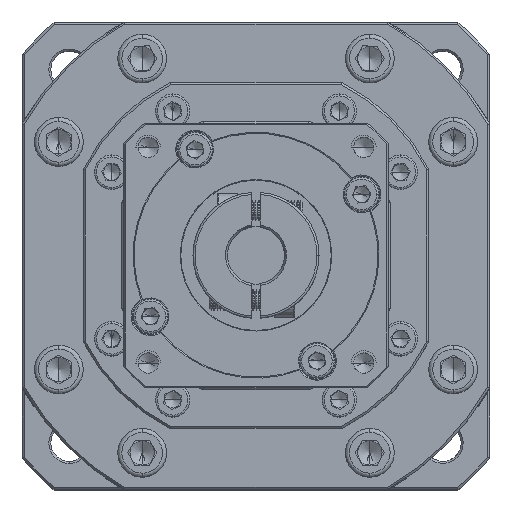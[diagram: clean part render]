
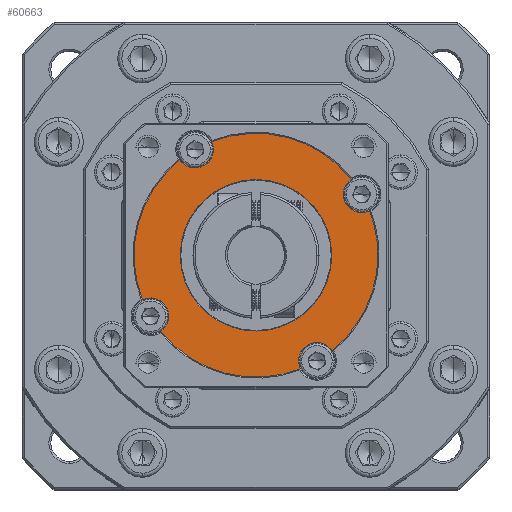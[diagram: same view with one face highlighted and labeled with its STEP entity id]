
A CAD part, top view. The second image highlights one B-rep face of the part: STEP entity #60663.
In plain terms, the highlighted planar face has unit normal (0, 0, 1).
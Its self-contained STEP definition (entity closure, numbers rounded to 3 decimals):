
#1072 = EDGE_CURVE ( 'NONE', #39935, #12181, #59356, .T. ) ;
#1724 = CARTESIAN_POINT ( 'NONE',  ( -60.961, 27.289, -3.698 ) ) ;
#1756 = CARTESIAN_POINT ( 'NONE',  ( -60.961, 27.289, -3.698 ) ) ;
#1801 = CIRCLE ( 'NONE', #104225, 18.644 ) ;
#3540 = CARTESIAN_POINT ( 'NONE',  ( -88.894, 16.343, -3.698 ) ) ;
#3610 = ORIENTED_EDGE ( 'NONE', *, *, #1072, .T. ) ;
#3713 = DIRECTION ( 'NONE',  ( 1., 0., 0. ) ) ;
#3820 = CARTESIAN_POINT ( 'NONE',  ( -50.016, -0.644, -3.698 ) ) ;
#4301 = EDGE_CURVE ( 'NONE', #36985, #88528, #77562, .T. ) ;
#4371 = CARTESIAN_POINT ( 'NONE',  ( -42.244, 3.844, -3.698 ) ) ;
#4482 = DIRECTION ( 'NONE',  ( 1., 0., 0. ) ) ;
#6733 = CIRCLE ( 'NONE', #121796, 4.5 ) ;
#7165 = CARTESIAN_POINT ( 'NONE',  ( -42.317, 27.289, -3.698 ) ) ;
#7750 = DIRECTION ( 'NONE',  ( 0., 0., 1. ) ) ;
#8287 = EDGE_CURVE ( 'NONE', #116603, #60258, #89022, .T. ) ;
#8455 = AXIS2_PLACEMENT_3D ( 'NONE', #1756, #107235, #48822 ) ;
#9093 = VERTEX_POINT ( 'NONE', #90419 ) ;
#10610 = AXIS2_PLACEMENT_3D ( 'NONE', #116569, #58145, #126382 ) ;
#10781 = ORIENTED_EDGE ( 'NONE', *, *, #4301, .F. ) ;
#11604 = DIRECTION ( 'NONE',  ( 1., 0., 0. ) ) ;
#12181 = VERTEX_POINT ( 'NONE', #3820 ) ;
#12183 = ORIENTED_EDGE ( 'NONE', *, *, #18571, .F. ) ;
#18571 = EDGE_CURVE ( 'NONE', #88528, #12181, #94264, .T. ) ;
#19110 = DIRECTION ( 'NONE',  ( 0., 0., 1. ) ) ;
#20690 = DIRECTION ( 'NONE',  ( 0., 0., 1. ) ) ;
#20805 = CARTESIAN_POINT ( 'NONE',  ( -86.942, 12.289, -3.698 ) ) ;
#21366 = AXIS2_PLACEMENT_3D ( 'NONE', #66278, #7750, #76119 ) ;
#22056 = ORIENTED_EDGE ( 'NONE', *, *, #90668, .F. ) ;
#22115 = CARTESIAN_POINT ( 'NONE',  ( -33.029, 38.234, -3.698 ) ) ;
#22496 = CARTESIAN_POINT ( 'NONE',  ( -79.606, 27.289, -3.698 ) ) ;
#23285 = ORIENTED_EDGE ( 'NONE', *, *, #8287, .T. ) ;
#26175 = ORIENTED_EDGE ( 'NONE', *, *, #40325, .T. ) ;
#26818 = EDGE_CURVE ( 'NONE', #36985, #116603, #29306, .T. ) ;
#28546 = AXIS2_PLACEMENT_3D ( 'NONE', #1724, #70152, #11604 ) ;
#29306 = CIRCLE ( 'NONE', #28546, 30. ) ;
#29344 = VERTEX_POINT ( 'NONE', #22496 ) ;
#30547 = CARTESIAN_POINT ( 'NONE',  ( -86.942, 12.289, -3.698 ) ) ;
#30631 = DIRECTION ( 'NONE',  ( 1., 0., 0. ) ) ;
#32760 = VERTEX_POINT ( 'NONE', #96810 ) ;
#33341 = EDGE_CURVE ( 'NONE', #50815, #60258, #125856, .T. ) ;
#34349 = CIRCLE ( 'NONE', #10610, 30. ) ;
#35018 = CARTESIAN_POINT ( 'NONE',  ( -75.961, 53.269, -3.698 ) ) ;
#35819 = EDGE_CURVE ( 'NONE', #29344, #103162, #1801, .T. ) ;
#35896 = DIRECTION ( 'NONE',  ( 0., 0., 1. ) ) ;
#36831 = CARTESIAN_POINT ( 'NONE',  ( -50.461, 1.308, -3.698 ) ) ;
#36985 = VERTEX_POINT ( 'NONE', #4371 ) ;
#38533 = ORIENTED_EDGE ( 'NONE', *, *, #26818, .T. ) ;
#39935 = VERTEX_POINT ( 'NONE', #52741 ) ;
#40011 = PLANE ( 'NONE',  #115029 ) ;
#40325 = EDGE_CURVE ( 'NONE', #69358, #32760, #63833, .T. ) ;
#40445 = DIRECTION ( 'NONE',  ( 1., 0., 0. ) ) ;
#41075 = DIRECTION ( 'NONE',  ( 0., 0., -1. ) ) ;
#44869 = DIRECTION ( 'NONE',  ( 1., 0., 0. ) ) ;
#45737 = DIRECTION ( 'NONE',  ( 0., 0., 1. ) ) ;
#47228 = EDGE_CURVE ( 'NONE', #71603, #80438, #96500, .T. ) ;
#47336 = CIRCLE ( 'NONE', #79772, 18.644 ) ;
#47667 = CIRCLE ( 'NONE', #109383, 4.5 ) ;
#48822 = DIRECTION ( 'NONE',  ( 1., 0., 0. ) ) ;
#49705 = CARTESIAN_POINT ( 'NONE',  ( -37.517, 46.006, -3.698 ) ) ;
#50815 = VERTEX_POINT ( 'NONE', #81344 ) ;
#51923 = ORIENTED_EDGE ( 'NONE', *, *, #47228, .F. ) ;
#52364 = CARTESIAN_POINT ( 'NONE',  ( -60.961, 27.289, -3.698 ) ) ;
#52741 = CARTESIAN_POINT ( 'NONE',  ( -84.406, 8.571, -3.698 ) ) ;
#56860 = DIRECTION ( 'NONE',  ( 0., 0., 1. ) ) ;
#57031 = ORIENTED_EDGE ( 'NONE', *, *, #85710, .F. ) ;
#58145 = DIRECTION ( 'NONE',  ( 0., 0., 1. ) ) ;
#59356 = CIRCLE ( 'NONE', #109735, 30. ) ;
#60258 = VERTEX_POINT ( 'NONE', #22115 ) ;
#60663 = ADVANCED_FACE ( 'NONE', ( #115875, #70168 ), #40011, .T. ) ;
#62157 = DIRECTION ( 'NONE',  ( 1., 0., 0. ) ) ;
#62269 = DIRECTION ( 'NONE',  ( 0., 0., 1. ) ) ;
#63040 = DIRECTION ( 'NONE',  ( 0., 0., 1. ) ) ;
#63833 = CIRCLE ( 'NONE', #8455, 30. ) ;
#66278 = CARTESIAN_POINT ( 'NONE',  ( -60.961, 27.289, -3.698 ) ) ;
#69358 = VERTEX_POINT ( 'NONE', #49705 ) ;
#70152 = DIRECTION ( 'NONE',  ( 0., 0., 1. ) ) ;
#70168 = FACE_OUTER_BOUND ( 'NONE', #95942, .T. ) ;
#71603 = VERTEX_POINT ( 'NONE', #84544 ) ;
#71837 = ORIENTED_EDGE ( 'NONE', *, *, #118761, .T. ) ;
#73014 = EDGE_CURVE ( 'NONE', #115792, #32760, #47667, .T. ) ;
#74054 = AXIS2_PLACEMENT_3D ( 'NONE', #121507, #63040, #4482 ) ;
#76119 = DIRECTION ( 'NONE',  ( 1., 0., 0. ) ) ;
#77562 = CIRCLE ( 'NONE', #84604, 4.5 ) ;
#77660 = CARTESIAN_POINT ( 'NONE',  ( -60.961, 27.289, -3.698 ) ) ;
#79301 = CARTESIAN_POINT ( 'NONE',  ( -60.961, 27.289, -3.698 ) ) ;
#79513 = AXIS2_PLACEMENT_3D ( 'NONE', #115315, #56860, #125141 ) ;
#79772 = AXIS2_PLACEMENT_3D ( 'NONE', #99475, #41075, #109275 ) ;
#80438 = VERTEX_POINT ( 'NONE', #3540 ) ;
#80923 = ORIENTED_EDGE ( 'NONE', *, *, #73014, .F. ) ;
#81344 = CARTESIAN_POINT ( 'NONE',  ( -39.481, 42.289, -3.698 ) ) ;
#84544 = CARTESIAN_POINT ( 'NONE',  ( -82.442, 12.289, -3.698 ) ) ;
#84604 = AXIS2_PLACEMENT_3D ( 'NONE', #94333, #35896, #104096 ) ;
#85710 = EDGE_CURVE ( 'NONE', #69358, #50815, #6733, .T. ) ;
#86072 = ORIENTED_EDGE ( 'NONE', *, *, #35819, .T. ) ;
#87409 = DIRECTION ( 'NONE',  ( 1., 0., 0. ) ) ;
#87871 = CARTESIAN_POINT ( 'NONE',  ( -30.961, 27.289, -3.698 ) ) ;
#88528 = VERTEX_POINT ( 'NONE', #36831 ) ;
#89017 = DIRECTION ( 'NONE',  ( 1., 0., 0. ) ) ;
#89022 = CIRCLE ( 'NONE', #21366, 30. ) ;
#89135 = DIRECTION ( 'NONE',  ( 0., 0., 1. ) ) ;
#90419 = CARTESIAN_POINT ( 'NONE',  ( -79.679, 50.733, -3.698 ) ) ;
#90668 = EDGE_CURVE ( 'NONE', #39935, #71603, #117568, .T. ) ;
#92298 = AXIS2_PLACEMENT_3D ( 'NONE', #30547, #98829, #40445 ) ;
#94264 = CIRCLE ( 'NONE', #74054, 4.5 ) ;
#94333 = CARTESIAN_POINT ( 'NONE',  ( -45.961, 1.308, -3.698 ) ) ;
#94855 = ORIENTED_EDGE ( 'NONE', *, *, #95776, .T. ) ;
#95776 = EDGE_CURVE ( 'NONE', #103162, #29344, #47336, .T. ) ;
#95942 = EDGE_LOOP ( 'NONE', ( #22056, #3610, #12183, #10781, #38533, #23285, #118872, #57031, #26175, #80923, #116027, #71837, #51923 ) ) ;
#96014 = EDGE_CURVE ( 'NONE', #9093, #115792, #105196, .T. ) ;
#96500 = CIRCLE ( 'NONE', #100260, 4.5 ) ;
#96810 = CARTESIAN_POINT ( 'NONE',  ( -71.906, 55.221, -3.698 ) ) ;
#96881 = AXIS2_PLACEMENT_3D ( 'NONE', #35018, #103249, #44869 ) ;
#98829 = DIRECTION ( 'NONE',  ( 0., 0., 1. ) ) ;
#99475 = CARTESIAN_POINT ( 'NONE',  ( -60.961, 27.289, -3.698 ) ) ;
#100260 = AXIS2_PLACEMENT_3D ( 'NONE', #20805, #89135, #30631 ) ;
#100868 = CARTESIAN_POINT ( 'NONE',  ( -71.461, 53.269, -3.698 ) ) ;
#103162 = VERTEX_POINT ( 'NONE', #7165 ) ;
#103249 = DIRECTION ( 'NONE',  ( 0., 0., 1. ) ) ;
#103590 = EDGE_LOOP ( 'NONE', ( #94855, #86072 ) ) ;
#104096 = DIRECTION ( 'NONE',  ( 1., 0., 0. ) ) ;
#104124 = CARTESIAN_POINT ( 'NONE',  ( -75.961, 53.269, -3.698 ) ) ;
#104225 = AXIS2_PLACEMENT_3D ( 'NONE', #52364, #120618, #62157 ) ;
#105196 = CIRCLE ( 'NONE', #96881, 4.5 ) ;
#107235 = DIRECTION ( 'NONE',  ( 0., 0., 1. ) ) ;
#109275 = DIRECTION ( 'NONE',  ( 1., 0., 0. ) ) ;
#109383 = AXIS2_PLACEMENT_3D ( 'NONE', #104124, #45737, #113971 ) ;
#109735 = AXIS2_PLACEMENT_3D ( 'NONE', #77660, #19110, #87409 ) ;
#113971 = DIRECTION ( 'NONE',  ( 1., 0., 0. ) ) ;
#115029 = AXIS2_PLACEMENT_3D ( 'NONE', #79301, #20690, #89017 ) ;
#115315 = CARTESIAN_POINT ( 'NONE',  ( -34.981, 42.289, -3.698 ) ) ;
#115792 = VERTEX_POINT ( 'NONE', #100868 ) ;
#115875 = FACE_BOUND ( 'NONE', #103590, .T. ) ;
#116027 = ORIENTED_EDGE ( 'NONE', *, *, #96014, .F. ) ;
#116569 = CARTESIAN_POINT ( 'NONE',  ( -60.961, 27.289, -3.698 ) ) ;
#116603 = VERTEX_POINT ( 'NONE', #87871 ) ;
#117568 = CIRCLE ( 'NONE', #92298, 4.5 ) ;
#118761 = EDGE_CURVE ( 'NONE', #9093, #80438, #34349, .T. ) ;
#118872 = ORIENTED_EDGE ( 'NONE', *, *, #33341, .F. ) ;
#120618 = DIRECTION ( 'NONE',  ( 0., 0., -1. ) ) ;
#120741 = CARTESIAN_POINT ( 'NONE',  ( -34.981, 42.289, -3.698 ) ) ;
#121507 = CARTESIAN_POINT ( 'NONE',  ( -45.961, 1.308, -3.698 ) ) ;
#121796 = AXIS2_PLACEMENT_3D ( 'NONE', #120741, #62269, #3713 ) ;
#125141 = DIRECTION ( 'NONE',  ( 1., 0., 0. ) ) ;
#125856 = CIRCLE ( 'NONE', #79513, 4.5 ) ;
#126382 = DIRECTION ( 'NONE',  ( 1., 0., 0. ) ) ;
